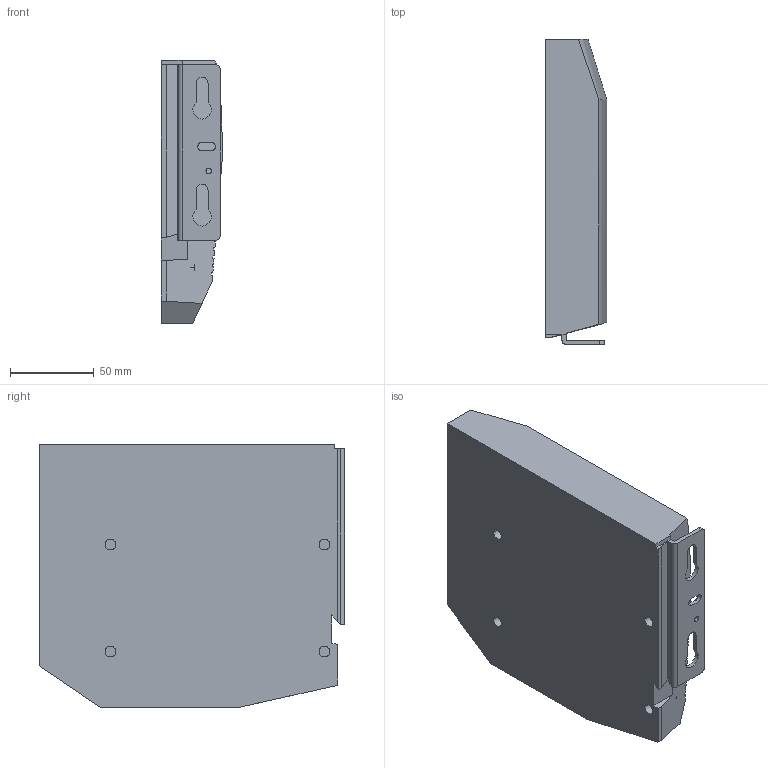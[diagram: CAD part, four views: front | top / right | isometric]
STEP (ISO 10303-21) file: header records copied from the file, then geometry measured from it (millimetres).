
FILE_DESCRIPTION (( 'STEP AP203' ), '1' );
FILE_NAME ('Kinvaro_T-75_links_D2762003325~0.step', '2012-05-04T06:53:04', ( 'admin' ), ( 'Hewlett-Packard Company' ), 'SwSTEP 2.0', 'SolidWorks 2011', '' );
FILE_SCHEMA (( 'CONFIG_CONTROL_DESIGN' ));
Length unit declared in the file: millimetre
Products named in the file (1): Kinvaro_T-75_links_D2762003325~0
Bounding box: 36.77 x 182.46 x 157.62 mm (x, y, z)
Volume: 856875.2 mm3; surface area: 81309.7 mm2
Topology: 1 solids, 1 shells, 129 faces, 364 edges, 241 vertices
Faces by surface type: plane 103, cylinder 24, bspline 2
Entity records: 4439 total; most frequent: CARTESIAN_POINT 989, ORIENTED_EDGE 728, DIRECTION 655, EDGE_CURVE 364, VECTOR 309, LINE 309, VERTEX_POINT 241, AXIS2_PLACEMENT_3D 173
